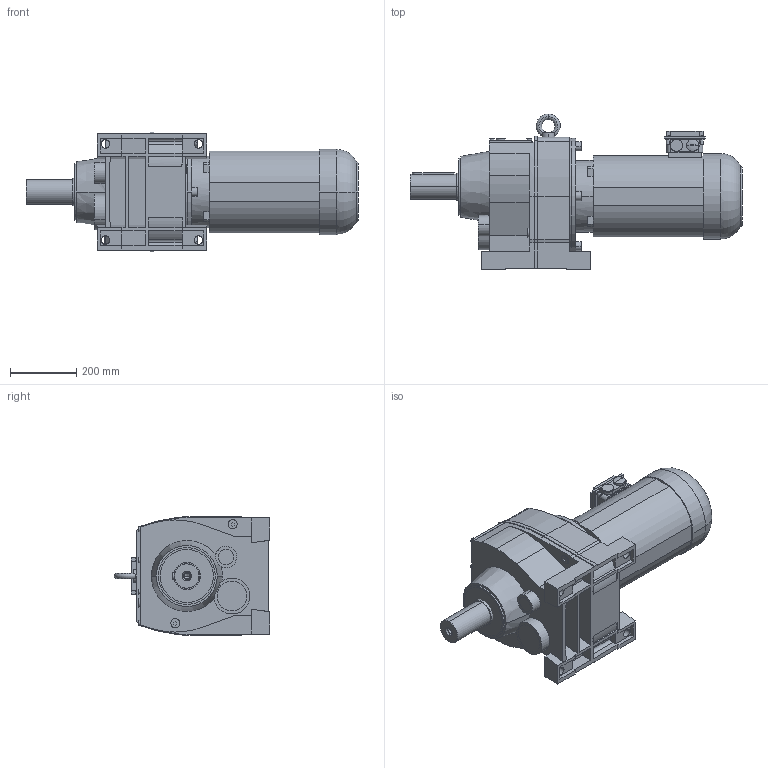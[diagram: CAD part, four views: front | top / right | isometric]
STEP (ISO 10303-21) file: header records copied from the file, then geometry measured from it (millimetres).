
FILE_DESCRIPTION(('STEP AP214'),'1');
FILE_NAME('STEP-File.stp','2018-01-01T00:00:00',(' '),('KEB'),' ','KEB-DRIVE',' ');
FILE_SCHEMA(('AUTOMOTIVE_DESIGN { 1 0 10303 214 1 1 1 1 }'));
Length unit declared in the file: millimetre
Products named in the file (9): g7a; w7_we_75x140; ca7; dm132_kkn; kk10; PLUG_M32; SCREW-PLUG_M32; ndm132; G73A DM132SB4§CAD13
Assembly tree (8 placements, depth 2):
  G73A DM132SB4§CAD13
    g7a
    w7_we_75x140
    ca7
    dm132_kkn
    kk10
    PLUG_M32
    SCREW-PLUG_M32
    ndm132
Bounding box: 999 x 469 x 360 mm (x, y, z)
Volume: 59822640.8 mm3; surface area: 1774904.7 mm2
Topology: 8 solids, 8 shells, 411 faces, 1056 edges, 697 vertices
Faces by surface type: plane 270, cylinder 115, torus 16, cone 10
Entity records: 14259 total; most frequent: CARTESIAN_POINT 4310, ORIENTED_EDGE 2108, DIRECTION 1855, EDGE_CURVE 1054, VECTOR 709, LINE 709, VERTEX_POINT 697, AXIS2_PLACEMENT_3D 573
